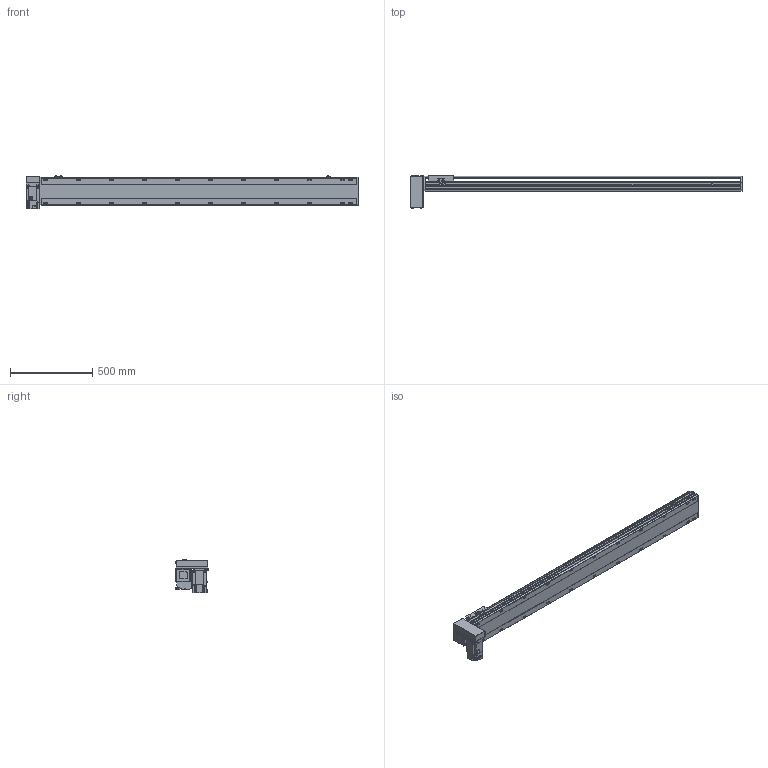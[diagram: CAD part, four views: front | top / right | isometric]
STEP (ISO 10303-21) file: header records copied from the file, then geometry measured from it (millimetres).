
FILE_DESCRIPTION( ( 'STEP AP214' ), '1' );
FILE_NAME( 'x:/temp/worker_5/temp/exporttempdir_3988_36_lFWJU/format_0/PBS170-P40-S1650-RD-T75-C1-N(0).stp', '2022-06-08T05:36:26', ( 'License CC BY-ND 4.0' ), ( 'CADENAS' ), ' ', 'PARTsolutions', ' ' );
FILE_SCHEMA( ( 'AUTOMOTIVE_DESIGN { 1 0 10303 214 1 1 1 1 }' ) );
Length unit declared in the file: millimetre
Products named in the file (7): PBS170-P40-S1650-RD-T75-C1-N(0); _PBS170-S1650()_body; _PBS170T-RD_motors; _T75-p1; _PBS170_sliser; _PBS170_plant; _PBS170_sensor
Assembly tree (8 placements, depth 2):
  PBS170-P40-S1650-RD-T75-C1-N(0)
    _PBS170-S1650()_body
    _PBS170T-RD_motors
    _T75-p1
    _PBS170_sliser
    _PBS170_plant
    _PBS170_sensor  x3
Bounding box: 2013 x 201 x 205.3 mm (x, y, z)
Volume: 15619127.4 mm3; surface area: 2000026.9 mm2
Topology: 8 solids, 8 shells, 1130 faces, 2995 edges, 1952 vertices
Faces by surface type: plane 705, cylinder 363, cone 52, sphere 8, torus 2
Full cylindrical faces by diameter (mm): 3.242 x4, 4 x2, 4.4 x4, 4.5 x6, 4.917 x4, 6 x9, 6.647 x30, 7 x2, 7.5 x4, 8 x8, 8.5 x22, 10 x4, 10.5 x22, 11 x2, 30 x2, 40 x1, 70 x1
Entity records: 41666 total; most frequent: CARTESIAN_POINT 6725, DIRECTION 5510, ORIENTED_EDGE 5208, EDGE_CURVE 2604, AXIS2_PLACEMENT_3D 1927, VERTEX_POINT 1802, LINE 1656, VECTOR 1656
